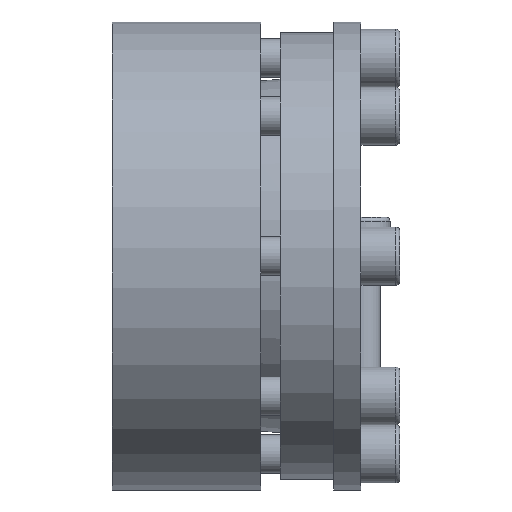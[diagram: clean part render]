
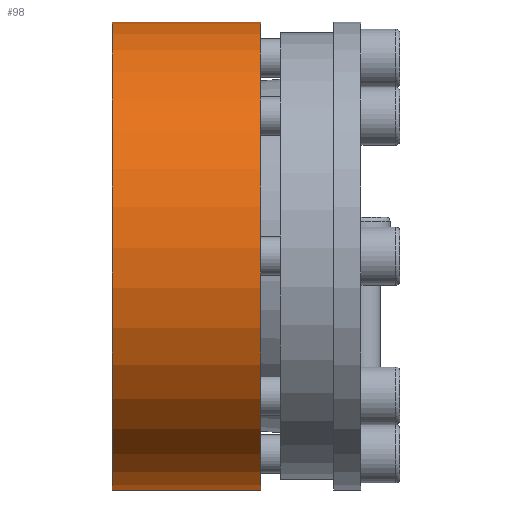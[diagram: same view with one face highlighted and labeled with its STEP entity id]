
A CAD part, left-side view. The second image highlights one B-rep face of the part: STEP entity #98.
In plain terms, the highlighted cylindrical face has radius 72.5 mm (diameter 145 mm), a partial arc.
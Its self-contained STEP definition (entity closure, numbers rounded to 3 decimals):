
#98 = ADVANCED_FACE( '', ( #232 ), #233, .T. );
#232 = FACE_OUTER_BOUND( '', #400, .T. );
#233 = CYLINDRICAL_SURFACE( '', #401, 72.5 );
#400 = EDGE_LOOP( '', ( #646, #647, #648, #649 ) );
#401 = AXIS2_PLACEMENT_3D( '', #650, #651, #652 );
#646 = ORIENTED_EDGE( '', *, *, #859, .F. );
#647 = ORIENTED_EDGE( '', *, *, #878, .T. );
#648 = ORIENTED_EDGE( '', *, *, #893, .T. );
#649 = ORIENTED_EDGE( '', *, *, #906, .T. );
#650 = CARTESIAN_POINT( '', ( 0., -60., 0. ) );
#651 = DIRECTION( '', ( 0., 1., 0. ) );
#652 = DIRECTION( '', ( 0., 0., -1. ) );
#859 = EDGE_CURVE( '', #1034, #1036, #1037, .T. );
#878 = EDGE_CURVE( '', #1034, #1068, #1070, .F. );
#893 = EDGE_CURVE( '', #1068, #1096, #1097, .T. );
#906 = EDGE_CURVE( '', #1096, #1036, #1113, .T. );
#1034 = VERTEX_POINT( '', #1335 );
#1036 = VERTEX_POINT( '', #1338 );
#1037 = CIRCLE( '', #1339, 72.5 );
#1068 = VERTEX_POINT( '', #1376 );
#1070 = LINE( '', #1379, #1380 );
#1096 = VERTEX_POINT( '', #1414 );
#1097 = CIRCLE( '', #1415, 72.5 );
#1113 = LINE( '', #1436, #1437 );
#1335 = CARTESIAN_POINT( '', ( 26.399, 31., 67.523 ) );
#1338 = CARTESIAN_POINT( '', ( 29.079, 31., 66.413 ) );
#1339 = AXIS2_PLACEMENT_3D( '', #1562, #1563, #1564 );
#1376 = CARTESIAN_POINT( '', ( 26.399, 77., 67.523 ) );
#1379 = CARTESIAN_POINT( '', ( 26.399, -60., 67.523 ) );
#1380 = VECTOR( '', #1599, 1000. );
#1414 = CARTESIAN_POINT( '', ( 29.079, 77., 66.413 ) );
#1415 = AXIS2_PLACEMENT_3D( '', #1626, #1627, #1628 );
#1436 = CARTESIAN_POINT( '', ( 29.079, -60., 66.413 ) );
#1437 = VECTOR( '', #1640, 1000. );
#1562 = CARTESIAN_POINT( '', ( 0., 31., 0. ) );
#1563 = DIRECTION( '', ( 0., -1., 0. ) );
#1564 = DIRECTION( '', ( 0., 0., -1. ) );
#1599 = DIRECTION( '', ( 0., -1., 0. ) );
#1626 = CARTESIAN_POINT( '', ( 0., 77., 0. ) );
#1627 = DIRECTION( '', ( 0., -1., 0. ) );
#1628 = DIRECTION( '', ( 0., 0., -1. ) );
#1640 = DIRECTION( '', ( 0., -1., 0. ) );
